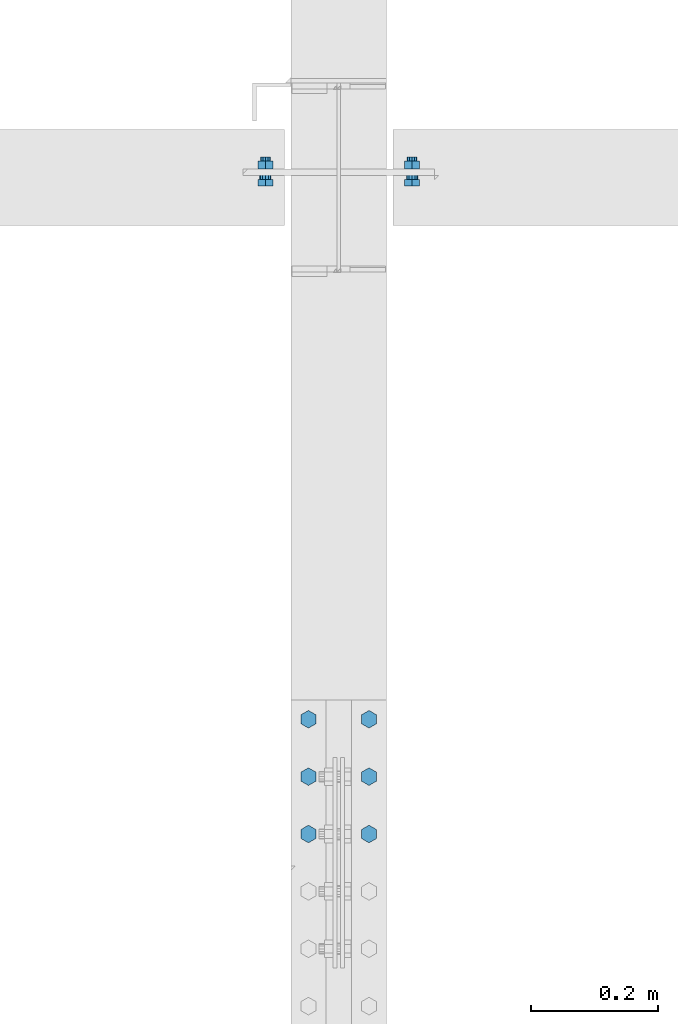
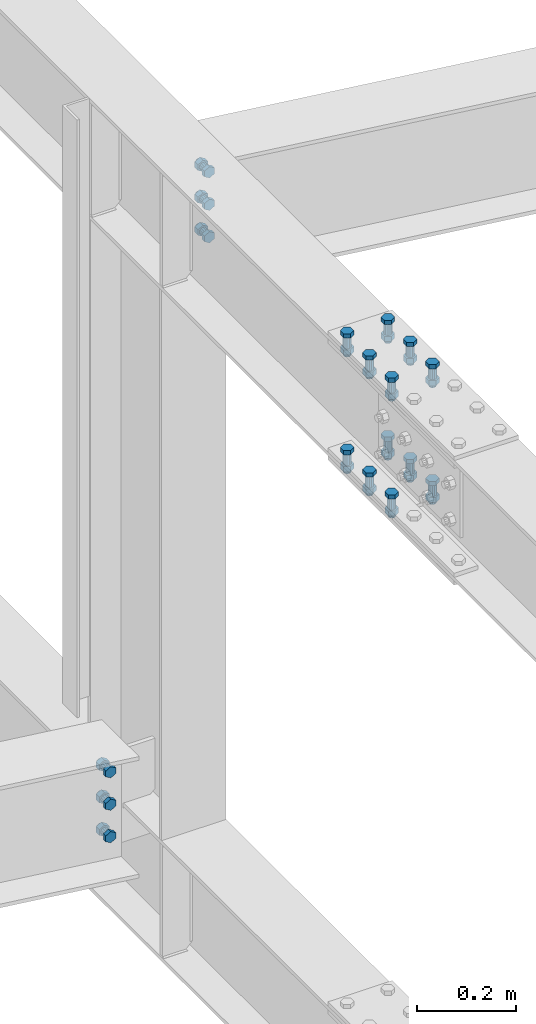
# One storey, part 290 of 3134: 6 mechanical fasteners, 3 elements without a shape of their own.
"""IFC2X3 building model written with IfcOpenShell, lengths in millimetres."""

import ifcopenshell
import ifcopenshell.guid

model = None  # the IFC model being written
_history = None  # IfcOwnerHistory: only IFC2X3 demands one
_inside = {}  # id of a spatial element -> (the spatial element, [elements in it])
_under = {}  # id of a project, library or spatial element -> (it, [spatial elements below it])
_declared = {}  # id of a project -> (the project, [libraries it declares])
_typed = {}  # id of a type object -> (the type object, [elements of that type])
_made_of = {}  # id of a material, layer set ... -> (it, [elements and type objects made of it])


def new_model(schema):
    """Start an empty IFC model of exactly this schema.

    Asked for "IFC4X3", IfcOpenShell would pick the latest addendum, in which some entities
    have other attributes; the version numbers below select the first issue.
    IFC2X3 requires an IfcOwnerHistory on every rooted entity: one is made here for all.
    """
    global model, _history
    if schema == "IFC4X3":
        model = ifcopenshell.file(schema_version=(4, 3, 0, 0))
    else:
        model = ifcopenshell.file(schema=schema)
    _inside.clear()
    _under.clear()
    _declared.clear()
    _typed.clear()
    _made_of.clear()
    _history = None
    if model.schema == "IFC2X3":
        org = make("IfcOrganization", Name="unknown")
        user = make(
            "IfcPersonAndOrganization",
            ThePerson=make("IfcPerson", FamilyName="unknown"),
            TheOrganization=org,
        )
        app = make(
            "IfcApplication",
            ApplicationDeveloper=org,
            Version="unknown",
            ApplicationFullName="unknown",
            ApplicationIdentifier="unknown",
        )
        _history = make(
            "IfcOwnerHistory",
            OwningUser=user,
            OwningApplication=app,
            ChangeAction="ADDED",
            CreationDate=0,
        )
    return model


def make(cls, **values):
    """One entity of the class cls with the attributes given. An attribute that is None is left unset."""
    return model.create_entity(
        cls, **{name: value for name, value in values.items() if value is not None}
    )


def rooted(cls, **values):
    """An entity with a GlobalId (a new one), such as an element, a storey or a relation."""
    return make(cls, GlobalId=ifcopenshell.guid.new(), OwnerHistory=_history, **values)


def si_unit(unit_type, name, prefix=None):
    """IfcSIUnit, for example si_unit("LENGTHUNIT", "METRE", prefix="MILLI")."""
    return make("IfcSIUnit", UnitType=unit_type, Prefix=prefix, Name=name)


def assignment(units):
    """IfcUnitAssignment: the units of a project."""
    return None if units is None else make("IfcUnitAssignment", Units=units)


def point(xyz):
    """IfcCartesianPoint."""
    return None if xyz is None else make("IfcCartesianPoint", Coordinates=xyz)


def direction(xyz):
    """IfcDirection."""
    return None if xyz is None else make("IfcDirection", DirectionRatios=xyz)


def frame(location, z_axis=None, x_axis=None):
    """IfcAxis2Placement3D, a coordinate frame: its origin and axes. An axis left out is left unset."""
    return make(
        "IfcAxis2Placement3D",
        Location=point(location),
        Axis=direction(z_axis),
        RefDirection=direction(x_axis),
    )


def origin_with_axes():
    """The frame at (0, 0, 0) with the z axis (0, 0, 1) and the x axis (1, 0, 0) written out."""
    return frame((0.0, 0.0, 0.0), z_axis=(0.0, 0.0, 1.0), x_axis=(1.0, 0.0, 0.0))


def place(relative_to, where):
    """IfcLocalPlacement: puts the frame where relative to a parent placement (None: the world)."""
    return make(
        "IfcLocalPlacement", PlacementRelTo=relative_to, RelativePlacement=where
    )


def context(
    kind, dimensions, precision=None, world=None, true_north=None, identifier=None
):
    """IfcGeometricRepresentationContext, for example the 3D "Model" context."""
    return make(
        "IfcGeometricRepresentationContext",
        ContextIdentifier=identifier,
        ContextType=kind,
        CoordinateSpaceDimension=dimensions,
        Precision=precision,
        WorldCoordinateSystem=world,
        TrueNorth=true_north,
    )


def subcontext(parent, identifier, kind, view, scale=None):
    """IfcGeometricRepresentationSubContext, for example "Body" below "Model"."""
    return make(
        "IfcGeometricRepresentationSubContext",
        ContextIdentifier=identifier,
        ContextType=kind,
        ParentContext=parent,
        TargetScale=scale,
        TargetView=view,
    )


def project(units=None, contexts=None):
    """IfcProject with its units and contexts."""
    return rooted(
        "IfcProject",
        Name="project",
        RepresentationContexts=contexts,
        UnitsInContext=assignment(units),
    )


def spatial(cls, under=None, at=None, **own):
    """A site, building, storey or space (cls), placed at a placement, below another one or the project."""
    s = rooted(cls, ObjectPlacement=at, **own)
    if under is not None:
        _under.setdefault(under.id(), (under, []))[1].append(s)
    return s


def faces_of(points, faces, orient=None, outer=None):
    """IfcFace entities. A face is a list of loops; a loop is a list of indices into points, from 0.

    orient and outer hold one flag for each loop. By default every Orientation is true, the
    first loop of a face is its IfcFaceOuterBound and the others are IfcFaceBound.
    """
    made = []
    for i, loops in enumerate(faces):
        bounds = []
        for j, loop in enumerate(loops):
            is_outer = j == 0 if outer is None else outer[i][j]
            bounds.append(
                make(
                    "IfcFaceOuterBound" if is_outer else "IfcFaceBound",
                    Bound=make("IfcPolyLoop", Polygon=[points[k] for k in loop]),
                    Orientation=True if orient is None else orient[i][j],
                )
            )
        made.append(make("IfcFace", Bounds=bounds))
    return made


def faceted_brep(points, faces, orient=None, outer=None, voids=None):
    """IfcFacetedBrep: a solid bounded by flat faces; with voids (closed shells), ...WithVoids."""
    shared = [point(p) for p in points]
    hull = make("IfcClosedShell", CfsFaces=faces_of(shared, faces, orient, outer))
    if voids is None:
        return make("IfcFacetedBrep", Outer=hull)
    return make(
        "IfcFacetedBrepWithVoids",
        Outer=hull,
        Voids=[
            make(cls, CfsFaces=faces_of(shared, fs, o, b)) for cls, fs, o, b in voids
        ],
    )


def shape(context_of_items, identifier, shape_type, items):
    """IfcShapeRepresentation: the items that make up one representation, for example the "Body"."""
    return make(
        "IfcShapeRepresentation",
        ContextOfItems=context_of_items,
        RepresentationIdentifier=identifier,
        RepresentationType=shape_type,
        Items=items,
    )


def source(mapping_origin, context_of_items, identifier, shape_type, items):
    """IfcRepresentationMap: a shape defined once, which mapped items show again and again."""
    return make(
        "IfcRepresentationMap",
        MappingOrigin=mapping_origin,
        MappedRepresentation=shape(context_of_items, identifier, shape_type, items),
    )


def transform(
    local_origin,
    x_axis=None,
    y_axis=None,
    z_axis=None,
    scale=None,
    scale2=None,
    scale3=None,
    uniform=True,
):
    """IfcCartesianTransformationOperator3D, or its non-uniform kind. x_axis, y_axis, z_axis: its Axis1, 2, 3."""
    if uniform:
        return make(
            "IfcCartesianTransformationOperator3D",
            Axis1=direction(x_axis),
            Axis2=direction(y_axis),
            LocalOrigin=point(local_origin),
            Scale=scale,
            Axis3=direction(z_axis),
        )
    return make(
        "IfcCartesianTransformationOperator3DnonUniform",
        Axis1=direction(x_axis),
        Axis2=direction(y_axis),
        LocalOrigin=point(local_origin),
        Scale=scale,
        Axis3=direction(z_axis),
        Scale2=scale2,
        Scale3=scale3,
    )


def mapped(mapping_source, mapping_target):
    """IfcMappedItem: shows the shape of a source again, moved by a transform."""
    return make(
        "IfcMappedItem", MappingSource=mapping_source, MappingTarget=mapping_target
    )


def material(Name=None, Category=None):
    """IfcMaterial."""
    return make("IfcMaterial", Name=Name, Category=Category)


def made_of(thing, what):
    """Note that an element or type object is made of a material, layer set ...; save() writes the relation."""
    if what is not None:
        _made_of.setdefault(what.id(), (what, []))[1].append(thing)
    return thing


def type_object(cls, material=None, **own):
    """A type object (cls), such as IfcWallType, which elements share."""
    return made_of(rooted(cls, **own), material)


def element(
    cls,
    number,
    at=None,
    inside=None,
    cuts=None,
    type_object=None,
    material=None,
    context=None,
    identifier="Body",
    shape_type=None,
    held_by="IfcProductDefinitionShape",
    body=None,
    shapes=None,
    **own,
):
    """One element of the class cls, such as IfcWall. Its Tag is "e" and its number.

    at: its placement. inside: the storey or other place that contains it. cuts: it is an
    opening in that element (IfcRelVoidsElement). A single representation is given by context,
    identifier, shape_type and body (its items); several are given by shapes. held_by: the class
    of the entity that holds the representations. save() writes the other relations.
    """
    e = rooted(cls, Tag="e%d" % number, ObjectPlacement=at, **own)
    if body is not None:
        shapes = [shape(context, identifier, shape_type, body)]
    if shapes is not None:
        e.Representation = make(held_by, Representations=shapes)
    if inside is not None:
        _inside.setdefault(inside.id(), (inside, []))[1].append(e)
    if cuts is not None:
        rooted(
            "IfcRelVoidsElement", RelatingBuildingElement=cuts, RelatedOpeningElement=e
        )
    if type_object is not None:
        _typed.setdefault(type_object.id(), (type_object, []))[1].append(e)
    return made_of(e, material)


def aggregate(whole, parts):
    """IfcRelAggregates: a whole, such as a stair, and the parts it consists of."""
    return rooted("IfcRelAggregates", RelatingObject=whole, RelatedObjects=parts)


def save(model, path):
    """Write the relations noted so far, then the file.

    IfcRelAggregates (storeys below a building ...), IfcRelContainedInSpatialStructure (elements
    in a storey), IfcRelDefinesByType, IfcRelAssociatesMaterial and IfcRelDeclares: one each for
    every whole, place, type object, material and project.
    """
    for whole, parts in _under.values():
        aggregate(whole, parts)
    for where, things in _inside.values():
        rooted(
            "IfcRelContainedInSpatialStructure",
            RelatedElements=things,
            RelatingStructure=where,
        )
    for kind, things in _typed.values():
        rooted("IfcRelDefinesByType", RelatedObjects=things, RelatingType=kind)
    for what, things in _made_of.values():
        rooted("IfcRelAssociatesMaterial", RelatedObjects=things, RelatingMaterial=what)
    for by, libraries in _declared.values():
        rooted("IfcRelDeclares", RelatingContext=by, RelatedDefinitions=libraries)
    model.write(path)


model = new_model("IFC2X3")

# Units and contexts
model_context = context("Model", 3, precision=1e-05, world=origin_with_axes())
body_context = subcontext(model_context, "Body", "Model", "MODEL_VIEW")
ifc_project = project(units=[si_unit("LENGTHUNIT", "METRE", prefix="MILLI"), si_unit("AREAUNIT", "SQUARE_METRE"), si_unit("VOLUMEUNIT", "CUBIC_METRE"), si_unit("MASSUNIT", "GRAM", prefix="KILO"), si_unit("TIMEUNIT", "SECOND"), si_unit("PLANEANGLEUNIT", "RADIAN"), si_unit("SOLIDANGLEUNIT", "STERADIAN"), si_unit("THERMODYNAMICTEMPERATUREUNIT", "DEGREE_CELSIUS"), si_unit("LUMINOUSINTENSITYUNIT", "LUMEN")], contexts=[model_context])

# Site, building, storey
site_placement = place(None, origin_with_axes())
site = spatial("IfcSite", under=ifc_project, at=site_placement, CompositionType="ELEMENT")
building_placement = place(site_placement, origin_with_axes())
building = spatial("IfcBuilding", under=site, at=building_placement, Name="Undefined", CompositionType="ELEMENT")
storey_placement = place(building_placement, origin_with_axes())
storey = spatial("IfcBuildingStorey", under=building, at=storey_placement, Name="Undefined", CompositionType="ELEMENT", Elevation=0.0)

# Assembly, mechanical fastener
assembly_1_placement = place(storey_placement, origin_with_axes())
assembly_1 = element("IfcElementAssembly", 1, at=assembly_1_placement, inside=storey, Name="300", AssemblyPlace="NOTDEFINED", PredefinedType="RIGID_FRAME")
ifc_material = material(Name="8.8")
mechanical_fastener_type = type_object("IfcMechanicalFastenerType", Name="Bolt assembly")
shared_shape_1 = source(origin_with_axes(), body_context, "Body", "Brep", [
    faceted_brep([(13.856406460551, -13.0499999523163, 0.0), (6.92820323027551, -13.0499999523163, 12.0), (-6.92820323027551, -13.0499999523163, 12.0), (-13.856406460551, -13.0499999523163, 1.69692038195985e-15), (-6.92820323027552, -13.0499999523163, -12.0), (6.9282032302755, -13.0499999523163, -12.0), (6.9282032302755, -3.04999995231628, -12.0), (-6.92820323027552, -3.04999995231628, -12.0), (-13.856406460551, -3.04999995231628, 1.69692038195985e-15), (-6.92820323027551, -3.04999995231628, 12.0), (6.92820323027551, -3.04999995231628, 12.0), (13.856406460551, -3.04999995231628, 0.0), (8.0, -3.04999995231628, 0.0), (6.92820323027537, -3.04999995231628, 4.00000000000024), (3.99999999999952, -3.04999995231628, 6.92820323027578), (-8.29068785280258e-13, -3.04999995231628, 8.0), (-4.00000000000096, -3.04999995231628, 6.92820323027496), (-6.9282032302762, -3.04999995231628, 3.99999999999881), (-8.0, -3.04999995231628, -1.65813757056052e-12), (-6.92820323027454, -3.04999995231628, -4.00000000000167), (-3.99999999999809, -3.04999995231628, -6.92820323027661), (2.47832457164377e-12, -3.04999995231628, -8.0), (4.00000000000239, -3.04999995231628, -6.92820323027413), (6.92820323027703, -3.04999995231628, -3.99999999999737), (6.92820323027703, 31.9500000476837, -3.99999999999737), (4.00000000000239, 31.9500000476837, -6.92820323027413), (2.47832457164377e-12, 31.9500000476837, -8.0), (-3.99999999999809, 31.9500000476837, -6.92820323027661), (-6.92820323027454, 31.9500000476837, -4.00000000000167), (-8.0, 31.9500000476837, -1.65813757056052e-12), (-6.9282032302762, 31.9500000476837, 3.99999999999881), (-4.00000000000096, 31.9500000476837, 6.92820323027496), (-8.29068785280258e-13, 31.9500000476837, 8.0), (3.99999999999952, 31.9500000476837, 6.92820323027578), (6.92820323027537, 31.9500000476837, 4.00000000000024), (8.0, 31.9500000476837, 0.0), (13.856406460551, 13.0500000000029, 0.0), (6.92820323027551, 13.0500000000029, 12.0), (-6.92820323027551, 13.0500000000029, 12.0), (-13.856406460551, 13.0500000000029, 1.69692038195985e-15), (-6.92820323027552, 13.0500000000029, -12.0), (6.9282032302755, 13.0500000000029, -12.0), (6.9282032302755, 26.0500000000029, -12.0), (-6.92820323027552, 26.0500000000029, -12.0), (-13.856406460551, 26.0500000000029, 1.69692038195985e-15), (-6.92820323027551, 26.0500000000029, 12.0), (6.92820323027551, 26.0500000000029, 12.0), (13.856406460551, 26.0500000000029, 0.0)], [[[0, 1, 2, 3, 4, 5]], [[6, 7, 8, 9, 10, 11]], [[0, 11, 10, 1]], [[1, 10, 9, 2]], [[2, 9, 8, 3]], [[3, 8, 7, 4]], [[4, 7, 6, 5]], [[5, 6, 11, 0]], [[12, 13, 14, 15, 16, 17, 18, 19, 20, 21, 22, 23]], [[24, 25, 26, 27, 28, 29, 30, 31, 32, 33, 34, 35]], [[12, 35, 34, 13]], [[13, 34, 33, 14]], [[14, 33, 32, 15]], [[15, 32, 31, 16]], [[16, 31, 30, 17]], [[17, 30, 29, 18]], [[18, 29, 28, 19]], [[19, 28, 27, 20]], [[20, 27, 26, 21]], [[21, 26, 25, 22]], [[22, 25, 24, 23]], [[23, 24, 35, 12]], [[36, 37, 38, 39, 40, 41]], [[42, 43, 44, 45, 46, 47]], [[36, 47, 46, 37]], [[37, 46, 45, 38]], [[38, 45, 44, 39]], [[39, 44, 43, 40]], [[40, 43, 42, 41]], [[41, 42, 47, 36]]]),
    faceted_brep([(9.0, 2.95000000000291, 0.0), (7.79422863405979, 2.95000000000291, 4.50000000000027), (4.49999999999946, 2.95000000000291, 7.79422863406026), (-9.3270238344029e-13, 2.95000000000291, 9.0), (-4.50000000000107, 2.95000000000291, 7.79422863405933), (-7.79422863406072, 2.95000000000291, 4.49999999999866), (-9.0, 2.95000000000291, -1.86540476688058e-12), (-7.79422863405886, 2.95000000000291, -4.50000000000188), (-4.49999999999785, 2.95000000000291, -7.79422863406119), (2.78811514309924e-12, 2.95000000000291, -9.0), (4.50000000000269, 2.95000000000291, -7.7942286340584), (7.79422863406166, 2.95000000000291, -4.49999999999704), (7.79422863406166, 13.0500000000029, -4.49999999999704), (4.50000000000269, 13.0500000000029, -7.7942286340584), (2.78811514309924e-12, 13.0500000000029, -9.0), (-4.49999999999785, 13.0500000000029, -7.79422863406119), (-7.79422863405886, 13.0500000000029, -4.50000000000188), (-9.0, 13.0500000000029, -1.86540476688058e-12), (-7.79422863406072, 13.0500000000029, 4.49999999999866), (-4.50000000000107, 13.0500000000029, 7.79422863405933), (-9.3270238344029e-13, 13.0500000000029, 9.0), (4.49999999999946, 13.0500000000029, 7.79422863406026), (7.79422863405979, 13.0500000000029, 4.50000000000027), (9.0, 13.0500000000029, 0.0), (9.0, -2.94999995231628, 0.0), (7.79422863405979, -2.94999995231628, 4.50000000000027), (4.49999999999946, -2.94999995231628, 7.79422863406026), (-9.3270238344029e-13, -2.94999995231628, 9.0), (-4.50000000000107, -2.94999995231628, 7.79422863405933), (-7.79422863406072, -2.94999995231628, 4.49999999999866), (-9.0, -2.94999995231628, -1.86540476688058e-12), (-7.79422863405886, -2.94999995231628, -4.50000000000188), (-4.49999999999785, -2.94999995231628, -7.79422863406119), (2.78811514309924e-12, -2.94999995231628, -9.0), (4.50000000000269, -2.94999995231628, -7.7942286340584), (7.79422863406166, -2.94999995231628, -4.49999999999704), (7.79422863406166, 3.14999995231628, -4.49999999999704), (4.50000000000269, 3.14999995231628, -7.7942286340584), (2.78811514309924e-12, 3.14999995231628, -9.0), (-4.49999999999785, 3.14999995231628, -7.79422863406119), (-7.79422863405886, 3.14999995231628, -4.50000000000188), (-9.0, 3.14999995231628, -1.86540476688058e-12), (-7.79422863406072, 3.14999995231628, 4.49999999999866), (-4.50000000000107, 3.14999995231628, 7.79422863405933), (-9.3270238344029e-13, 3.14999995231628, 9.0), (4.49999999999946, 3.14999995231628, 7.79422863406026), (7.79422863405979, 3.14999995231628, 4.50000000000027), (9.0, 3.14999995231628, 0.0)], [[[0, 1, 2, 3, 4, 5, 6, 7, 8, 9, 10, 11]], [[12, 13, 14, 15, 16, 17, 18, 19, 20, 21, 22, 23]], [[0, 23, 22, 1]], [[1, 22, 21, 2]], [[2, 21, 20, 3]], [[3, 20, 19, 4]], [[4, 19, 18, 5]], [[5, 18, 17, 6]], [[6, 17, 16, 7]], [[7, 16, 15, 8]], [[8, 15, 14, 9]], [[9, 14, 13, 10]], [[10, 13, 12, 11]], [[11, 12, 23, 0]], [[24, 25, 26, 27, 28, 29, 30, 31, 32, 33, 34, 35]], [[36, 37, 38, 39, 40, 41, 42, 43, 44, 45, 46, 47]], [[24, 47, 46, 25]], [[25, 46, 45, 26]], [[26, 45, 44, 27]], [[27, 44, 43, 28]], [[28, 43, 42, 29]], [[29, 42, 41, 30]], [[30, 41, 40, 31]], [[31, 40, 39, 32]], [[32, 39, 38, 33]], [[33, 38, 37, 34]], [[34, 37, 36, 35]], [[35, 36, 47, 24]]]),
])
mechanical_fastener_1_placement = place(assembly_1_placement, frame((55760.0, 53250.0, 4337.44269270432), z_axis=(1.0, 0.0, 0.0), x_axis=(0.0, 0.0, -1.0)))
mechanical_fastener_1 = element("IfcMechanicalFastener", 2, at=mechanical_fastener_1_placement, type_object=mechanical_fastener_type, material=ifc_material, Name="Bolt assembly", NominalDiameter=16.0, NominalLength=35.0, context=body_context, shape_type="MappedRepresentation", body=[
    mapped(shared_shape_1, transform((0.0, 0.0, 0.0))),
    mapped(shared_shape_1, transform((80.0, 0.0, 0.0))),
    mapped(shared_shape_1, transform((160.0, 0.0, 0.0))),
])
aggregate(assembly_1, [mechanical_fastener_1])

assembly_2_placement = place(storey_placement, origin_with_axes())
assembly_2 = element("IfcElementAssembly", 3, at=assembly_2_placement, inside=storey, Name="300", AssemblyPlace="NOTDEFINED", PredefinedType="RIGID_FRAME")
mechanical_fastener_2_placement = place(assembly_2_placement, frame((55990.0, 53250.0, 5735.35014950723), z_axis=(1.0, 0.0, 0.0), x_axis=(0.0, 0.0, -1.0)))
mechanical_fastener_2 = element("IfcMechanicalFastener", 4, at=mechanical_fastener_2_placement, type_object=mechanical_fastener_type, material=ifc_material, Name="Bolt assembly", NominalDiameter=16.0, NominalLength=35.0, context=body_context, shape_type="MappedRepresentation", body=[
    mapped(shared_shape_1, transform((0.0, 0.0, 0.0))),
    mapped(shared_shape_1, transform((80.0, 0.0, 0.0))),
    mapped(shared_shape_1, transform((160.0, 0.0, 0.0))),
])
aggregate(assembly_2, [mechanical_fastener_2])

# Assembly, mechanical fasteners
assembly_3_placement = place(storey_placement, origin_with_axes())
assembly_3 = element("IfcElementAssembly", 5, at=assembly_3_placement, inside=storey, Name="300", AssemblyPlace="NOTDEFINED", PredefinedType="RIGID_FRAME")
shared_shape_2 = source(origin_with_axes(), body_context, "Body", "Brep", [
    faceted_brep([(13.856406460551, -29.1999998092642, 0.0), (6.92820323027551, -29.1999998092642, 12.0), (-6.92820323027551, -29.1999998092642, 12.0), (-13.856406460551, -29.1999998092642, 1.69692038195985e-15), (-6.92820323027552, -29.1999998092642, -12.0), (6.9282032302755, -29.1999998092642, -12.0), (6.9282032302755, -19.199990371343, -12.0), (-6.92820323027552, -19.199990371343, -12.0), (-13.856406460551, -19.199990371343, 1.69692038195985e-15), (-6.92820323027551, -19.199990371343, 12.0), (6.92820323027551, -19.199990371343, 12.0), (13.856406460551, -19.199990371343, 0.0), (8.0, -19.1999998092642, 0.0), (6.92820323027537, -19.1999998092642, 4.00000000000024), (3.99999999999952, -19.1999998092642, 6.92820323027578), (-8.29068785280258e-13, -19.1999998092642, 8.0), (-4.00000000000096, -19.1999998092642, 6.92820323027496), (-6.9282032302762, -19.1999998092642, 3.99999999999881), (-8.0, -19.1999998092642, -1.65813757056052e-12), (-6.92820323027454, -19.1999998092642, -4.00000000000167), (-3.99999999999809, -19.1999998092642, -6.92820323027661), (2.47832457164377e-12, -19.1999998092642, -8.0), (4.00000000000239, -19.1999998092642, -6.92820323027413), (6.92820323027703, -19.1999998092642, -3.99999999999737), (6.92820323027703, 30.8000001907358, -3.99999999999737), (4.00000000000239, 30.8000001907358, -6.92820323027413), (2.47832457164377e-12, 30.8000001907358, -8.0), (-3.99999999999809, 30.8000001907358, -6.92820323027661), (-6.92820323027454, 30.8000001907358, -4.00000000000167), (-8.0, 30.8000001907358, -1.65813757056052e-12), (-6.9282032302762, 30.8000001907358, 3.99999999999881), (-4.00000000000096, 30.8000001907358, 6.92820323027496), (-8.29068785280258e-13, 30.8000001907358, 8.0), (3.99999999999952, 30.8000001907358, 6.92820323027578), (6.92820323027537, 30.8000001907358, 4.00000000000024), (8.0, 30.8000001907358, 0.0), (13.856406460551, 9.99999995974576, 0.0), (6.92820323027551, 9.99999995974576, 12.0), (-6.92820323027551, 9.99999995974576, 12.0), (-13.856406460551, 9.99999995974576, 1.69692038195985e-15), (-6.92820323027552, 9.99999995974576, -12.0), (6.9282032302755, 9.99999995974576, -12.0), (6.9282032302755, 22.9999913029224, -12.0), (-6.92820323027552, 22.9999913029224, -12.0), (-13.856406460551, 22.9999913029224, 1.69692038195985e-15), (-6.92820323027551, 22.9999913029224, 12.0), (6.92820323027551, 22.9999913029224, 12.0), (13.856406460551, 22.9999913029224, 0.0)], [[[0, 1, 2, 3, 4, 5]], [[6, 7, 8, 9, 10, 11]], [[0, 11, 10, 1]], [[1, 10, 9, 2]], [[2, 9, 8, 3]], [[3, 8, 7, 4]], [[4, 7, 6, 5]], [[5, 6, 11, 0]], [[12, 13, 14, 15, 16, 17, 18, 19, 20, 21, 22, 23]], [[24, 25, 26, 27, 28, 29, 30, 31, 32, 33, 34, 35]], [[12, 35, 34, 13]], [[13, 34, 33, 14]], [[14, 33, 32, 15]], [[15, 32, 31, 16]], [[16, 31, 30, 17]], [[17, 30, 29, 18]], [[18, 29, 28, 19]], [[19, 28, 27, 20]], [[20, 27, 26, 21]], [[21, 26, 25, 22]], [[22, 25, 24, 23]], [[23, 24, 35, 12]], [[36, 37, 38, 39, 40, 41]], [[42, 43, 44, 45, 46, 47]], [[36, 47, 46, 37]], [[37, 46, 45, 38]], [[38, 45, 44, 39]], [[39, 44, 43, 40]], [[40, 43, 42, 41]], [[41, 42, 47, 36]]]),
    faceted_brep([(9.0, -19.0999998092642, 0.0), (7.79422863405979, -19.0999998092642, 4.50000000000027), (4.49999999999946, -19.0999998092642, 7.79422863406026), (-9.3270238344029e-13, -19.0999998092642, 9.0), (-4.50000000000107, -19.0999998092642, 7.79422863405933), (-7.79422863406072, -19.0999998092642, 4.49999999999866), (-9.0, -19.0999998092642, -1.86540476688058e-12), (-7.79422863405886, -19.0999998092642, -4.50000000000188), (-4.49999999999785, -19.0999998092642, -7.79422863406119), (2.78811514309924e-12, -19.0999998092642, -9.0), (4.50000000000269, -19.0999998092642, -7.7942286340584), (7.79422863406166, -19.0999998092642, -4.49999999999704), (7.79422863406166, -9.09999037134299, -4.49999999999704), (4.50000000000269, -9.09999037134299, -7.7942286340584), (2.78811514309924e-12, -9.09999037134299, -9.0), (-4.49999999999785, -9.09999037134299, -7.79422863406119), (-7.79422863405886, -9.09999037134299, -4.50000000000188), (-9.0, -9.09999037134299, -1.86540476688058e-12), (-7.79422863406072, -9.09999037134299, 4.49999999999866), (-4.50000000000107, -9.09999037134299, 7.79422863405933), (-9.3270238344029e-13, -9.09999037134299, 9.0), (4.49999999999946, -9.09999037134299, 7.79422863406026), (7.79422863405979, -9.09999037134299, 4.50000000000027), (9.0, -9.09999037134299, 0.0), (9.0, -9.20000008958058, 0.0), (7.79422863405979, -9.20000008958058, 4.50000000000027), (4.49999999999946, -9.20000008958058, 7.79422863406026), (-9.3270238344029e-13, -9.20000008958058, 9.0), (-4.50000000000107, -9.20000008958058, 7.79422863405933), (-7.79422863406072, -9.20000008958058, 4.49999999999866), (-9.0, -9.20000008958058, -1.86540476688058e-12), (-7.79422863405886, -9.20000008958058, -4.50000000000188), (-4.49999999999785, -9.20000008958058, -7.79422863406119), (2.78811514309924e-12, -9.20000008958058, -9.0), (4.50000000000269, -9.20000008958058, -7.7942286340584), (7.79422863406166, -9.20000008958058, -4.49999999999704), (7.79422863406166, -3.46568413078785e-07, -4.49999999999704), (4.50000000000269, -3.46568413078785e-07, -7.7942286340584), (2.78811514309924e-12, -3.46568413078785e-07, -9.0), (-4.49999999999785, -3.46568413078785e-07, -7.79422863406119), (-7.79422863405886, -3.46568413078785e-07, -4.50000000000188), (-9.0, -3.46568413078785e-07, -1.86540476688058e-12), (-7.79422863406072, -3.46568413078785e-07, 4.49999999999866), (-4.50000000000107, -3.46568413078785e-07, 7.79422863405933), (-9.3270238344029e-13, -3.46568413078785e-07, 9.0), (4.49999999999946, -3.46568413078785e-07, 7.79422863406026), (7.79422863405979, -3.46568413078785e-07, 4.50000000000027), (9.0, -3.46568413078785e-07, 0.0), (9.0, -0.1, 0.0), (7.79422863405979, -0.1, 4.50000000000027), (4.49999999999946, -0.1, 7.79422863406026), (-9.3270238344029e-13, -0.1, 9.0), (-4.50000000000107, -0.1, 7.79422863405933), (-7.79422863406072, -0.1, 4.49999999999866), (-9.0, -0.1, -1.86540476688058e-12), (-7.79422863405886, -0.1, -4.50000000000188), (-4.49999999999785, -0.1, -7.79422863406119), (2.78811514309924e-12, -0.1, -9.0), (4.50000000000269, -0.1, -7.7942286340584), (7.79422863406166, -0.1, -4.49999999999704), (7.79422863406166, 9.99999995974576, -4.49999999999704), (4.50000000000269, 9.99999995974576, -7.7942286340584), (2.78811514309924e-12, 9.99999995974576, -9.0), (-4.49999999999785, 9.99999995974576, -7.79422863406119), (-7.79422863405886, 9.99999995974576, -4.50000000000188), (-9.0, 9.99999995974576, -1.86540476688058e-12), (-7.79422863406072, 9.99999995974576, 4.49999999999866), (-4.50000000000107, 9.99999995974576, 7.79422863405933), (-9.3270238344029e-13, 9.99999995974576, 9.0), (4.49999999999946, 9.99999995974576, 7.79422863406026), (7.79422863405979, 9.99999995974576, 4.50000000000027), (9.0, 9.99999995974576, 0.0)], [[[0, 1, 2, 3, 4, 5, 6, 7, 8, 9, 10, 11]], [[12, 13, 14, 15, 16, 17, 18, 19, 20, 21, 22, 23]], [[0, 23, 22, 1]], [[1, 22, 21, 2]], [[2, 21, 20, 3]], [[3, 20, 19, 4]], [[4, 19, 18, 5]], [[5, 18, 17, 6]], [[6, 17, 16, 7]], [[7, 16, 15, 8]], [[8, 15, 14, 9]], [[9, 14, 13, 10]], [[10, 13, 12, 11]], [[11, 12, 23, 0]], [[24, 25, 26, 27, 28, 29, 30, 31, 32, 33, 34, 35]], [[36, 37, 38, 39, 40, 41, 42, 43, 44, 45, 46, 47]], [[24, 47, 46, 25]], [[25, 46, 45, 26]], [[26, 45, 44, 27]], [[27, 44, 43, 28]], [[28, 43, 42, 29]], [[29, 42, 41, 30]], [[30, 41, 40, 31]], [[31, 40, 39, 32]], [[32, 39, 38, 33]], [[33, 38, 37, 34]], [[34, 37, 36, 35]], [[35, 36, 47, 24]], [[48, 49, 50, 51, 52, 53, 54, 55, 56, 57, 58, 59]], [[60, 61, 62, 63, 64, 65, 66, 67, 68, 69, 70, 71]], [[48, 71, 70, 49]], [[49, 70, 69, 50]], [[50, 69, 68, 51]], [[51, 68, 67, 52]], [[52, 67, 66, 53]], [[53, 66, 65, 54]], [[54, 65, 64, 55]], [[55, 64, 63, 56]], [[56, 63, 62, 57]], [[57, 62, 61, 58]], [[58, 61, 60, 59]], [[59, 60, 71, 48]]]),
])
mechanical_fastener_3_placement = place(assembly_3_placement, frame((55922.5, 52220.1, 5880.80000019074), z_axis=(-1.0, 0.0, 0.0), x_axis=(0.0, 1.0, 0.0)))
mechanical_fastener_3 = element("IfcMechanicalFastener", 6, at=mechanical_fastener_3_placement, type_object=mechanical_fastener_type, material=ifc_material, Name="Bolt assembly", NominalDiameter=16.0, NominalLength=50.0, context=body_context, shape_type="MappedRepresentation", body=[
    mapped(shared_shape_2, transform((0.0, 0.0, 0.0))),
    mapped(shared_shape_2, transform((90.0, 0.0, 0.0))),
    mapped(shared_shape_2, transform((180.0, 0.0, 0.0))),
])
mechanical_fastener_4_placement = place(assembly_3_placement, frame((55827.5, 52220.1, 5880.80000019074), z_axis=(-1.0, 0.0, 0.0), x_axis=(0.0, 1.0, 0.0)))
mechanical_fastener_4 = element("IfcMechanicalFastener", 7, at=mechanical_fastener_4_placement, type_object=mechanical_fastener_type, material=ifc_material, Name="Bolt assembly", NominalDiameter=16.0, NominalLength=50.0, context=body_context, shape_type="MappedRepresentation", body=[
    mapped(shared_shape_2, transform((0.0, 0.0, 0.0))),
    mapped(shared_shape_2, transform((90.0, 0.0, 0.0))),
    mapped(shared_shape_2, transform((180.0, 0.0, 0.0))),
])
shared_shape_3 = source(origin_with_axes(), body_context, "Body", "Brep", [
    faceted_brep([(13.856406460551, -20.0, 0.0), (6.92820323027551, -20.0, 12.0), (-6.92820323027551, -20.0, 12.0), (-13.856406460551, -20.0, 1.69692038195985e-15), (-6.92820323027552, -20.0, -12.0), (6.9282032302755, -20.0, -12.0), (6.9282032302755, -10.0, -12.0), (-6.92820323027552, -10.0, -12.0), (-13.856406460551, -10.0, 1.69692038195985e-15), (-6.92820323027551, -10.0, 12.0), (6.92820323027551, -10.0, 12.0), (13.856406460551, -10.0, 0.0), (8.0, -10.0, 0.0), (6.92820323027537, -10.0, 4.00000000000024), (3.99999999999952, -10.0, 6.92820323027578), (-8.29068785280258e-13, -10.0, 8.0), (-4.00000000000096, -10.0, 6.92820323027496), (-6.9282032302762, -10.0, 3.99999999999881), (-8.0, -10.0, -1.65813757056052e-12), (-6.92820323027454, -10.0, -4.00000000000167), (-3.99999999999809, -10.0, -6.92820323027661), (2.47832457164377e-12, -10.0, -8.0), (4.00000000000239, -10.0, -6.92820323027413), (6.92820323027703, -10.0, -3.99999999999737), (6.92820323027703, 40.0, -3.99999999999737), (4.00000000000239, 40.0, -6.92820323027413), (2.47832457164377e-12, 40.0, -8.0), (-3.99999999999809, 40.0, -6.92820323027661), (-6.92820323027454, 40.0, -4.00000000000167), (-8.0, 40.0, -1.65813757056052e-12), (-6.9282032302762, 40.0, 3.99999999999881), (-4.00000000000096, 40.0, 6.92820323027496), (-8.29068785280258e-13, 40.0, 8.0), (3.99999999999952, 40.0, 6.92820323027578), (6.92820323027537, 40.0, 4.00000000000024), (8.0, 40.0, 0.0), (13.856406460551, 19.1999998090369, 0.0), (6.92820323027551, 19.1999998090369, 12.0), (-6.92820323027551, 19.1999998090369, 12.0), (-13.856406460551, 19.1999998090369, 1.69692038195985e-15), (-6.92820323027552, 19.1999998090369, -12.0), (6.9282032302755, 19.1999998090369, -12.0), (6.9282032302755, 32.1999998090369, -12.0), (-6.92820323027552, 32.1999998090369, -12.0), (-13.856406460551, 32.1999998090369, 1.69692038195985e-15), (-6.92820323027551, 32.1999998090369, 12.0), (6.92820323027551, 32.1999998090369, 12.0), (13.856406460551, 32.1999998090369, 0.0)], [[[0, 1, 2, 3, 4, 5]], [[6, 7, 8, 9, 10, 11]], [[0, 11, 10, 1]], [[1, 10, 9, 2]], [[2, 9, 8, 3]], [[3, 8, 7, 4]], [[4, 7, 6, 5]], [[5, 6, 11, 0]], [[12, 13, 14, 15, 16, 17, 18, 19, 20, 21, 22, 23]], [[24, 25, 26, 27, 28, 29, 30, 31, 32, 33, 34, 35]], [[12, 35, 34, 13]], [[13, 34, 33, 14]], [[14, 33, 32, 15]], [[15, 32, 31, 16]], [[16, 31, 30, 17]], [[17, 30, 29, 18]], [[18, 29, 28, 19]], [[19, 28, 27, 20]], [[20, 27, 26, 21]], [[21, 26, 25, 22]], [[22, 25, 24, 23]], [[23, 24, 35, 12]], [[36, 37, 38, 39, 40, 41]], [[42, 43, 44, 45, 46, 47]], [[36, 47, 46, 37]], [[37, 46, 45, 38]], [[38, 45, 44, 39]], [[39, 44, 43, 40]], [[40, 43, 42, 41]], [[41, 42, 47, 36]]]),
    faceted_brep([(9.0, 9.09999980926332, 0.0), (7.79422863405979, 9.09999980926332, 4.50000000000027), (4.49999999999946, 9.09999980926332, 7.79422863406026), (-9.3270238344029e-13, 9.09999980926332, 9.0), (-4.50000000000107, 9.09999980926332, 7.79422863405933), (-7.79422863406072, 9.09999980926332, 4.49999999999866), (-9.0, 9.09999980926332, -1.86540476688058e-12), (-7.79422863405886, 9.09999980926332, -4.50000000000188), (-4.49999999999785, 9.09999980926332, -7.79422863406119), (2.78811514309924e-12, 9.09999980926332, -9.0), (4.50000000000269, 9.09999980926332, -7.7942286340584), (7.79422863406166, 9.09999980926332, -4.49999999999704), (7.79422863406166, 19.1999998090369, -4.49999999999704), (4.50000000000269, 19.1999998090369, -7.7942286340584), (2.78811514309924e-12, 19.1999998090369, -9.0), (-4.49999999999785, 19.1999998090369, -7.79422863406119), (-7.79422863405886, 19.1999998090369, -4.50000000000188), (-9.0, 19.1999998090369, -1.86540476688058e-12), (-7.79422863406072, 19.1999998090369, 4.49999999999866), (-4.50000000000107, 19.1999998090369, 7.79422863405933), (-9.3270238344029e-13, 19.1999998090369, 9.0), (4.49999999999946, 19.1999998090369, 7.79422863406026), (7.79422863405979, 19.1999998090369, 4.50000000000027), (9.0, 19.1999998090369, 0.0), (9.0, -3.46568413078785e-07, 0.0), (7.79422863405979, -3.46568413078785e-07, 4.50000000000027), (4.49999999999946, -3.46568413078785e-07, 7.79422863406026), (-9.3270238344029e-13, -3.46568413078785e-07, 9.0), (-4.50000000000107, -3.46568413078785e-07, 7.79422863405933), (-7.79422863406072, -3.46568413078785e-07, 4.49999999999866), (-9.0, -3.46568413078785e-07, -1.86540476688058e-12), (-7.79422863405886, -3.46568413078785e-07, -4.50000000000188), (-4.49999999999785, -3.46568413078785e-07, -7.79422863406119), (2.78811514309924e-12, -3.46568413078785e-07, -9.0), (4.50000000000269, -3.46568413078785e-07, -7.7942286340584), (7.79422863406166, -3.46568413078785e-07, -4.49999999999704), (7.79422863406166, 9.19999980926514, -4.49999999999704), (4.50000000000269, 9.19999980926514, -7.7942286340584), (2.78811514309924e-12, 9.19999980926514, -9.0), (-4.49999999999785, 9.19999980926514, -7.79422863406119), (-7.79422863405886, 9.19999980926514, -4.50000000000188), (-9.0, 9.19999980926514, -1.86540476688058e-12), (-7.79422863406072, 9.19999980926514, 4.49999999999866), (-4.50000000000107, 9.19999980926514, 7.79422863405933), (-9.3270238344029e-13, 9.19999980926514, 9.0), (4.49999999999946, 9.19999980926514, 7.79422863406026), (7.79422863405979, 9.19999980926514, 4.50000000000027), (9.0, 9.19999980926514, 0.0), (9.0, -9.89999997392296, 0.0), (7.79422863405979, -9.89999997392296, 4.50000000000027), (4.49999999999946, -9.89999997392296, 7.79422863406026), (-9.3270238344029e-13, -9.89999997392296, 9.0), (-4.50000000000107, -9.89999997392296, 7.79422863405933), (-7.79422863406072, -9.89999997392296, 4.49999999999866), (-9.0, -9.89999997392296, -1.86540476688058e-12), (-7.79422863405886, -9.89999997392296, -4.50000000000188), (-4.49999999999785, -9.89999997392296, -7.79422863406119), (2.78811514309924e-12, -9.89999997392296, -9.0), (4.50000000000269, -9.89999997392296, -7.7942286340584), (7.79422863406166, -9.89999997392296, -4.49999999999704), (7.79422863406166, 0.100000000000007, -4.49999999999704), (4.50000000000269, 0.100000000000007, -7.7942286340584), (2.78811514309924e-12, 0.100000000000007, -9.0), (-4.49999999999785, 0.100000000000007, -7.79422863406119), (-7.79422863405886, 0.100000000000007, -4.50000000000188), (-9.0, 0.100000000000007, -1.86540476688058e-12), (-7.79422863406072, 0.100000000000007, 4.49999999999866), (-4.50000000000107, 0.100000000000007, 7.79422863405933), (-9.3270238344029e-13, 0.100000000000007, 9.0), (4.49999999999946, 0.100000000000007, 7.79422863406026), (7.79422863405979, 0.100000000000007, 4.50000000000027), (9.0, 0.100000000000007, 0.0)], [[[0, 1, 2, 3, 4, 5, 6, 7, 8, 9, 10, 11]], [[12, 13, 14, 15, 16, 17, 18, 19, 20, 21, 22, 23]], [[0, 23, 22, 1]], [[1, 22, 21, 2]], [[2, 21, 20, 3]], [[3, 20, 19, 4]], [[4, 19, 18, 5]], [[5, 18, 17, 6]], [[6, 17, 16, 7]], [[7, 16, 15, 8]], [[8, 15, 14, 9]], [[9, 14, 13, 10]], [[10, 13, 12, 11]], [[11, 12, 23, 0]], [[24, 25, 26, 27, 28, 29, 30, 31, 32, 33, 34, 35]], [[36, 37, 38, 39, 40, 41, 42, 43, 44, 45, 46, 47]], [[24, 47, 46, 25]], [[25, 46, 45, 26]], [[26, 45, 44, 27]], [[27, 44, 43, 28]], [[28, 43, 42, 29]], [[29, 42, 41, 30]], [[30, 41, 40, 31]], [[31, 40, 39, 32]], [[32, 39, 38, 33]], [[33, 38, 37, 34]], [[34, 37, 36, 35]], [[35, 36, 47, 24]], [[48, 49, 50, 51, 52, 53, 54, 55, 56, 57, 58, 59]], [[60, 61, 62, 63, 64, 65, 66, 67, 68, 69, 70, 71]], [[48, 71, 70, 49]], [[49, 70, 69, 50]], [[50, 69, 68, 51]], [[51, 68, 67, 52]], [[52, 67, 66, 53]], [[53, 66, 65, 54]], [[54, 65, 64, 55]], [[55, 64, 63, 56]], [[56, 63, 62, 57]], [[57, 62, 61, 58]], [[58, 61, 60, 59]], [[59, 60, 71, 48]]]),
])
mechanical_fastener_5_placement = place(assembly_3_placement, frame((55827.4999999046, 52220.1, 5602.19999980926), z_axis=(-1.0, 0.0, 0.0), x_axis=(0.0, 1.0, 0.0)))
mechanical_fastener_5 = element("IfcMechanicalFastener", 8, at=mechanical_fastener_5_placement, type_object=mechanical_fastener_type, material=ifc_material, Name="Bolt assembly", NominalDiameter=16.0, NominalLength=50.0, context=body_context, shape_type="MappedRepresentation", body=[
    mapped(shared_shape_3, transform((0.0, 0.0, 0.0))),
    mapped(shared_shape_3, transform((90.0, 0.0, 0.0))),
    mapped(shared_shape_3, transform((180.0, 0.0, 0.0))),
])
mechanical_fastener_6_placement = place(assembly_3_placement, frame((55922.4999999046, 52220.1, 5602.19999980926), z_axis=(-1.0, 0.0, 0.0), x_axis=(0.0, 1.0, 0.0)))
mechanical_fastener_6 = element("IfcMechanicalFastener", 9, at=mechanical_fastener_6_placement, type_object=mechanical_fastener_type, material=ifc_material, Name="Bolt assembly", NominalDiameter=16.0, NominalLength=50.0, context=body_context, shape_type="MappedRepresentation", body=[
    mapped(shared_shape_3, transform((0.0, 0.0, 0.0))),
    mapped(shared_shape_3, transform((90.0, 0.0, 0.0))),
    mapped(shared_shape_3, transform((180.0, 0.0, 0.0))),
])
aggregate(assembly_3, [mechanical_fastener_3, mechanical_fastener_4, mechanical_fastener_5, mechanical_fastener_6])

save(model, "model.ifc")
